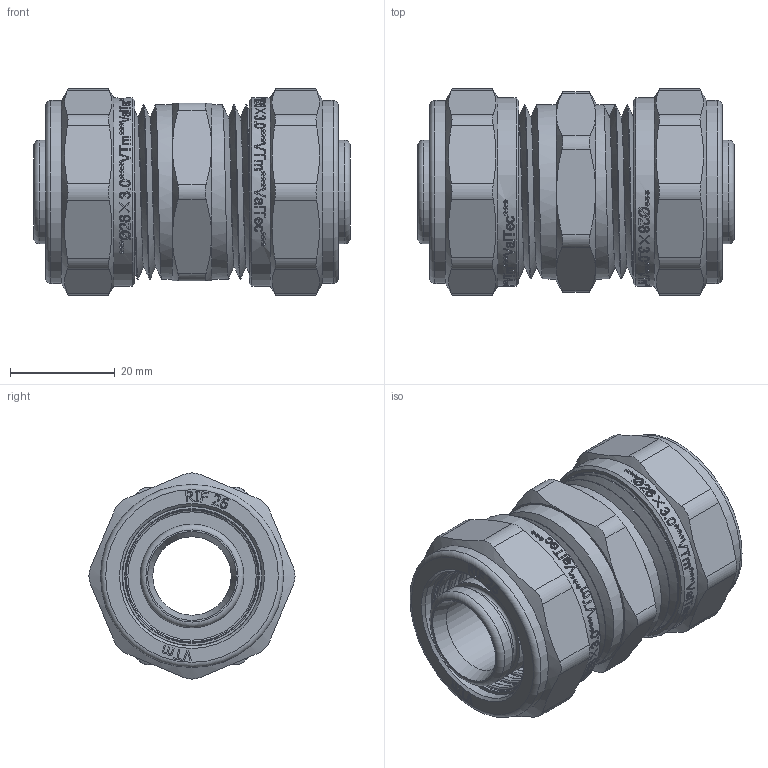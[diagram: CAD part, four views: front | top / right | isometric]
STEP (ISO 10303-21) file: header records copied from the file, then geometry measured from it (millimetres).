
FILE_DESCRIPTION(/* description */ (''),/* implementation_level */ '2;1');
FILE_NAME(/* name */ 'E:\Артём\00000\Работа удаленка\Обжимные фитинги\VTm.303.N.002626.stp',/* time_stamp */ '2020-06-10T15:42:03+03:00',/* author */ ('BeN_GaN'),/* organization */ (''),/* preprocessor_version */ 'ST-DEVELOPER v18',/* originating_system */ 'Autodesk Inventor 2020',/* authorisation */ '');
FILE_SCHEMA (('AUTOMOTIVE_DESIGN { 1 0 10303 214 3 1 1 }'));
Products named in the file (1): VTm.303.N.002626
Bounding box: 60.5 x 39.39 x 39.39 mm (x, y, z)
Volume: 35051.7 mm3; surface area: 24377.9 mm2
Topology: 1 solids, 1 shells, 1307 faces, 3695 edges, 2500 vertices
Faces by surface type: bspline 740, plane 328, cylinder 151, torus 48, cone 40
Full cylindrical faces by diameter (mm): 15 x1, 17.4 x4, 19.8 x10, 24.516 x8, 25.435 x10, 26.2 x2, 26.7 x2, 28.5 x2, 28.7 x4, 30.5 x2, 33.3 x4, 35 x2, 36 x2
Entity records: 54974 total; most frequent: CARTESIAN_POINT 25881, ORIENTED_EDGE 7390, DIRECTION 3747, EDGE_CURVE 3695, VERTEX_POINT 2500, B_SPLINE_CURVE_WITH_KNOTS 1590, LINE 1487, VECTOR 1487
